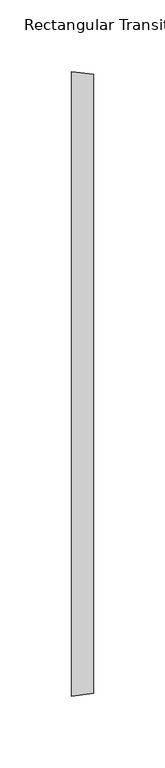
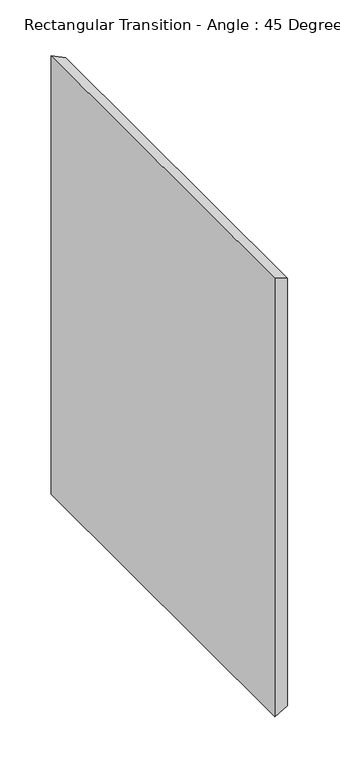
"""IFC4 building model written with IfcOpenShell, lengths in millimetres: duct fitting geometry, Rectangular Transition - Angle : 45 Degree."""

from ifc_helpers import new_model, si_unit, origin, place, context, project, spatial, faceted_brep, source, transform, mapped, element, save


def rectangular_transition_angle_45_degree_2e22f6ee(model_context):
    return source(origin(), model_context, "Body", "Brep", [
        faceted_brep([(15.3302561, 215.9, 254.0), (15.3302561, -215.9, 254.0), (15.3302561, -215.9, -254.0), (15.3302561, 215.9, -254.0), (0.0, 217.7851563, 260.35), (0.0, 217.7851563, -260.35), (0.0, -217.7851562, -260.35), (0.0, -217.7851562, 260.35)], [[[0, 1, 2, 3]], [[4, 5, 6, 7]], [[4, 0, 3, 5]], [[5, 3, 2, 6]], [[6, 2, 1, 7]], [[7, 1, 0, 4]]]),
    ])


if __name__ == "__main__":
    model = new_model("IFC4")
    model_context = context("Model", 3, world=origin())
    ifc_project = project(units=[si_unit("LENGTHUNIT", "METRE", prefix="MILLI")], contexts=[model_context])
    site = spatial("IfcSite", under=ifc_project)
    building = spatial("IfcBuilding", under=site)
    placement = place(None, origin())
    rectangular_transition_angle_45_degree_shape = rectangular_transition_angle_45_degree_2e22f6ee(model_context)
    element("IfcDuctFitting", 1, ObjectType="Rectangular Transition - Angle : 45 Degree", at=placement, inside=building, context=model_context, shape_type="MappedRepresentation", body=[
        mapped(rectangular_transition_angle_45_degree_shape, transform((0.0, 0.0, 0.0), x_axis=(1.0, 0.0, 0.0), y_axis=(0.0, 1.0, 0.0), z_axis=(0.0, 0.0, 1.0))),
    ])
    save(model, "model.ifc")
